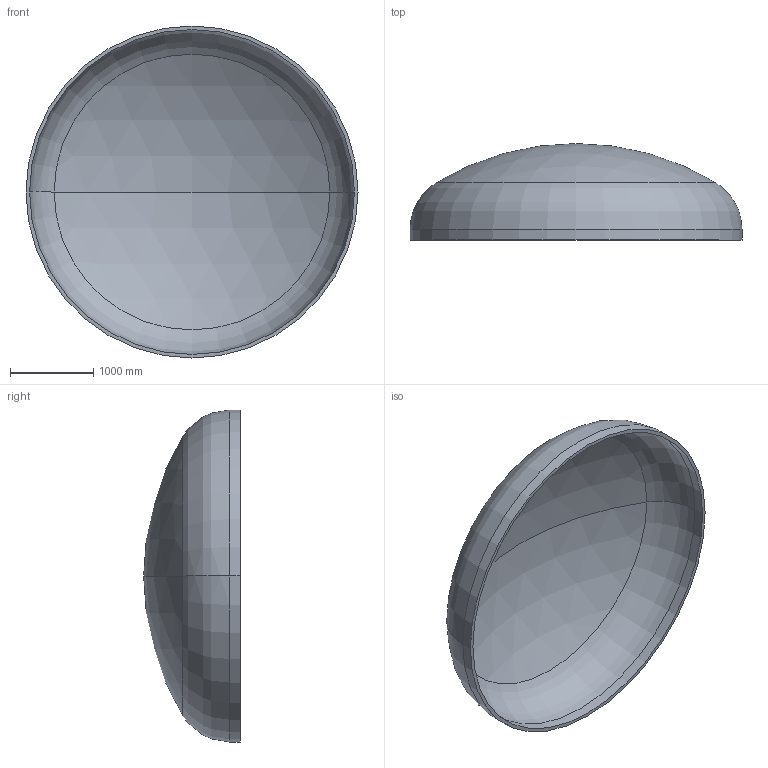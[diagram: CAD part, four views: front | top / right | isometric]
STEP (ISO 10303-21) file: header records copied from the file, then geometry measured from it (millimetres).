
FILE_DESCRIPTION (( 'STEP AP203' ), '1' );
FILE_NAME ('DIN 28013 Korbbogenform_-_Boden DIN 28013 - 4000 x 130 - I - s=43.step', '2016-07-01T22:24:43', ( '' ), ( '' ), 'SwSTEP 2.0', 'SolidWorks 2013', '' );
FILE_SCHEMA (( 'CONFIG_CONTROL_DESIGN' ));
Length unit declared in the file: millimetre
Products named in the file (1): DIN 28013 Korbbogenform_-_Boden DIN 28013 - 4000 x 130 - I - s=43
Bounding box: 4000 x 1163.64 x 4000 mm (x, y, z)
Volume: 807074218.6 mm3; surface area: 38076739.7 mm2
Topology: 1 solids, 1 shells, 13 faces, 24 edges, 14 vertices
Faces by surface type: torus 4, cylinder 4, sphere 4, plane 1
Entity records: 407 total; most frequent: DIRECTION 72, CARTESIAN_POINT 52, ORIENTED_EDGE 48, AXIS2_PLACEMENT_3D 34, EDGE_CURVE 24, CIRCLE 20, EDGE_LOOP 14, VERTEX_POINT 14
